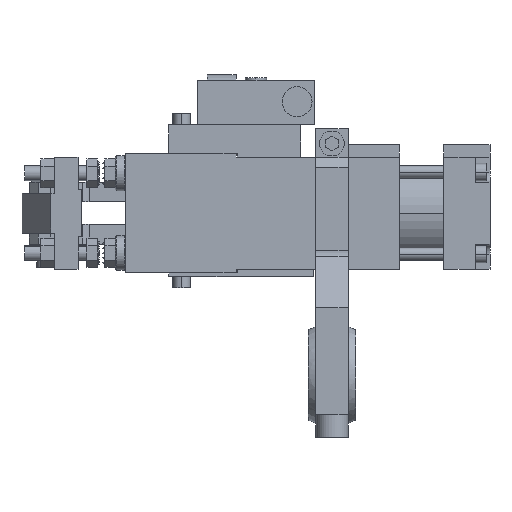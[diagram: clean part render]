
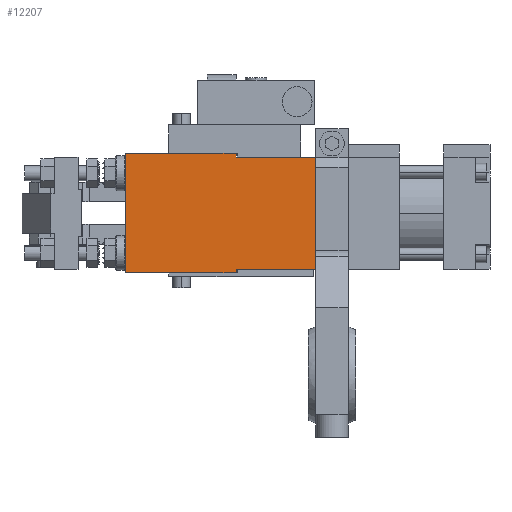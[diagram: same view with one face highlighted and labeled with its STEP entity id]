
A CAD part, left-side view. The second image highlights one B-rep face of the part: STEP entity #12207.
In plain terms, the highlighted planar face has unit normal (-1, 0, 0).
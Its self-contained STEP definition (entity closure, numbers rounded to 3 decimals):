
#121 = ORIENTED_EDGE ( 'NONE', *, *, #8504, .F. ) ;
#364 = PLANE ( 'NONE',  #18115 ) ;
#428 = EDGE_CURVE ( 'NONE', #6105, #5561, #4191, .T. ) ;
#1587 = VECTOR ( 'NONE', #18899, 1000. ) ;
#2366 = CARTESIAN_POINT ( 'NONE',  ( -22.5, 22., 12.5 ) ) ;
#3742 = DIRECTION ( 'NONE',  ( 0., 0., -1. ) ) ;
#3988 = CARTESIAN_POINT ( 'NONE',  ( -22.5, -40., 22.5 ) ) ;
#4035 = EDGE_CURVE ( 'NONE', #14041, #6105, #13648, .T. ) ;
#4041 = LINE ( 'NONE', #21877, #19692 ) ;
#4191 = LINE ( 'NONE', #21000, #14623 ) ;
#4215 = DIRECTION ( 'NONE',  ( 0., 0., 1. ) ) ;
#4279 = VERTEX_POINT ( 'NONE', #13606 ) ;
#4444 = DIRECTION ( 'NONE',  ( 0., -1., 0. ) ) ;
#4594 = VECTOR ( 'NONE', #4444, 1000. ) ;
#4622 = DIRECTION ( 'NONE',  ( 0., 0., -1. ) ) ;
#5561 = VERTEX_POINT ( 'NONE', #3988 ) ;
#6105 = VERTEX_POINT ( 'NONE', #12822 ) ;
#6327 = DIRECTION ( 'NONE',  ( 1., 0., 0. ) ) ;
#6709 = ORIENTED_EDGE ( 'NONE', *, *, #4035, .F. ) ;
#6730 = VERTEX_POINT ( 'NONE', #19042 ) ;
#6953 = CARTESIAN_POINT ( 'NONE',  ( -22.5, 36.5, 24. ) ) ;
#7071 = EDGE_CURVE ( 'NONE', #22680, #14041, #17912, .T. ) ;
#7624 = CARTESIAN_POINT ( 'NONE',  ( -22.5, 22., -24. ) ) ;
#7937 = LINE ( 'NONE', #24710, #22957 ) ;
#8422 = VECTOR ( 'NONE', #4622, 1000. ) ;
#8504 = EDGE_CURVE ( 'NONE', #5561, #4279, #21310, .T. ) ;
#9264 = DIRECTION ( 'NONE',  ( 0., -1., 0. ) ) ;
#10066 = ORIENTED_EDGE ( 'NONE', *, *, #14760, .T. ) ;
#10885 = VECTOR ( 'NONE', #3742, 1000. ) ;
#11475 = LINE ( 'NONE', #7624, #21297 ) ;
#12207 = ADVANCED_FACE ( 'NONE', ( #15208 ), #364, .F. ) ;
#12822 = CARTESIAN_POINT ( 'NONE',  ( -22.5, -8., 22.5 ) ) ;
#13115 = CARTESIAN_POINT ( 'NONE',  ( -22.5, -8., -22.5 ) ) ;
#13606 = CARTESIAN_POINT ( 'NONE',  ( -22.5, -40., -22.5 ) ) ;
#13607 = ORIENTED_EDGE ( 'NONE', *, *, #428, .F. ) ;
#13626 = CARTESIAN_POINT ( 'NONE',  ( -22.5, -8., 24. ) ) ;
#13648 = LINE ( 'NONE', #20240, #8422 ) ;
#13876 = ORIENTED_EDGE ( 'NONE', *, *, #19429, .T. ) ;
#14041 = VERTEX_POINT ( 'NONE', #13626 ) ;
#14623 = VECTOR ( 'NONE', #9264, 1000. ) ;
#14760 = EDGE_CURVE ( 'NONE', #19515, #6730, #11475, .T. ) ;
#14957 = CARTESIAN_POINT ( 'NONE',  ( -22.5, 22., -22.5 ) ) ;
#15208 = FACE_OUTER_BOUND ( 'NONE', #17914, .T. ) ;
#16452 = EDGE_CURVE ( 'NONE', #19515, #22680, #4041, .T. ) ;
#17272 = LINE ( 'NONE', #14957, #1587 ) ;
#17912 = LINE ( 'NONE', #20146, #4594 ) ;
#17914 = EDGE_LOOP ( 'NONE', ( #24565, #24704, #10066, #18182, #13876, #121, #13607, #6709 ) ) ;
#18115 = AXIS2_PLACEMENT_3D ( 'NONE', #2366, #6327, #20037 ) ;
#18182 = ORIENTED_EDGE ( 'NONE', *, *, #18807, .T. ) ;
#18763 = DIRECTION ( 'NONE',  ( 0., 0., 1. ) ) ;
#18807 = EDGE_CURVE ( 'NONE', #6730, #24206, #7937, .T. ) ;
#18899 = DIRECTION ( 'NONE',  ( 0., -1., 0. ) ) ;
#19042 = CARTESIAN_POINT ( 'NONE',  ( -22.5, -8., -24. ) ) ;
#19143 = CARTESIAN_POINT ( 'NONE',  ( -22.5, 36.5, -24. ) ) ;
#19347 = DIRECTION ( 'NONE',  ( 0., -1., 0. ) ) ;
#19429 = EDGE_CURVE ( 'NONE', #24206, #4279, #17272, .T. ) ;
#19515 = VERTEX_POINT ( 'NONE', #19143 ) ;
#19692 = VECTOR ( 'NONE', #4215, 1000. ) ;
#20037 = DIRECTION ( 'NONE',  ( 0., 1., 0. ) ) ;
#20146 = CARTESIAN_POINT ( 'NONE',  ( -22.5, 22., 24. ) ) ;
#20240 = CARTESIAN_POINT ( 'NONE',  ( -22.5, -8., 24. ) ) ;
#21000 = CARTESIAN_POINT ( 'NONE',  ( -22.5, 22., 22.5 ) ) ;
#21297 = VECTOR ( 'NONE', #19347, 1000. ) ;
#21310 = LINE ( 'NONE', #21407, #10885 ) ;
#21407 = CARTESIAN_POINT ( 'NONE',  ( -22.5, -40., 12.5 ) ) ;
#21877 = CARTESIAN_POINT ( 'NONE',  ( -22.5, 36.5, 24. ) ) ;
#22680 = VERTEX_POINT ( 'NONE', #6953 ) ;
#22957 = VECTOR ( 'NONE', #18763, 1000. ) ;
#24206 = VERTEX_POINT ( 'NONE', #13115 ) ;
#24565 = ORIENTED_EDGE ( 'NONE', *, *, #7071, .F. ) ;
#24704 = ORIENTED_EDGE ( 'NONE', *, *, #16452, .F. ) ;
#24710 = CARTESIAN_POINT ( 'NONE',  ( -22.5, -8., -24. ) ) ;
